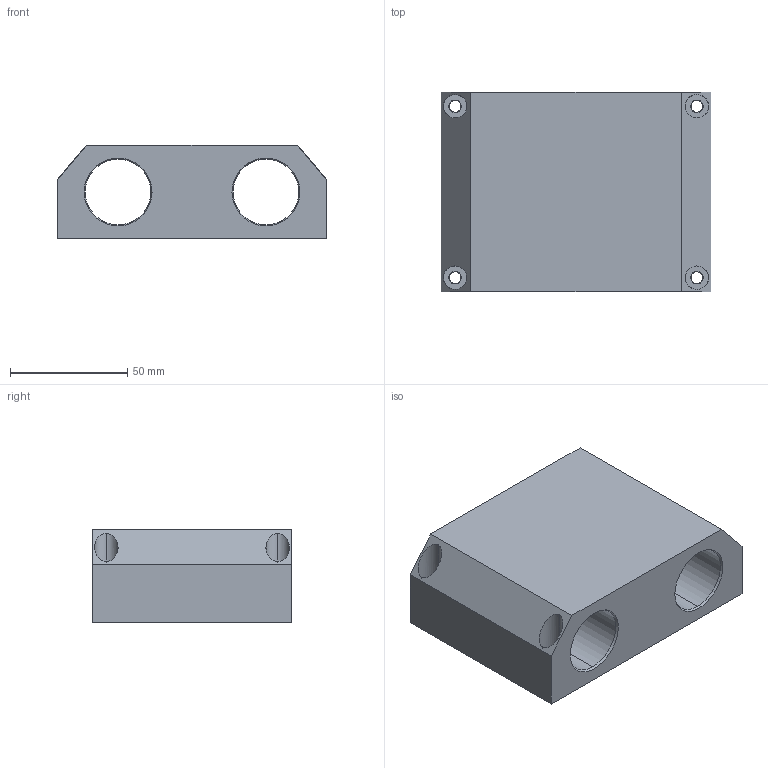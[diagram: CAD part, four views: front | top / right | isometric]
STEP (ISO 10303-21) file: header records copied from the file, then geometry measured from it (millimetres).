
FILE_DESCRIPTION (( 'STEP AP214' ), '1' );
FILE_NAME ('KQSGC-20.step', '2020-03-04T13:10:34', ( '' ), ( '' ), 'SwSTEP 2.0', 'SolidWorks 2019', '' );
FILE_SCHEMA (( 'AUTOMOTIVE_DESIGN' ));
Length unit declared in the file: millimetre
Products named in the file (1): KQSGC-20
Bounding box: 115 x 85 x 40 mm (x, y, z)
Volume: 264474.5 mm3; surface area: 48741.5 mm2
Topology: 1 solids, 1 shells, 58 faces, 132 edges, 83 vertices
Faces by surface type: cylinder 30, plane 16, cone 12
Entity records: 1774 total; most frequent: DIRECTION 302, CARTESIAN_POINT 296, ORIENTED_EDGE 260, EDGE_CURVE 130, AXIS2_PLACEMENT_3D 121, VERTEX_POINT 83, EDGE_LOOP 79, CIRCLE 62
